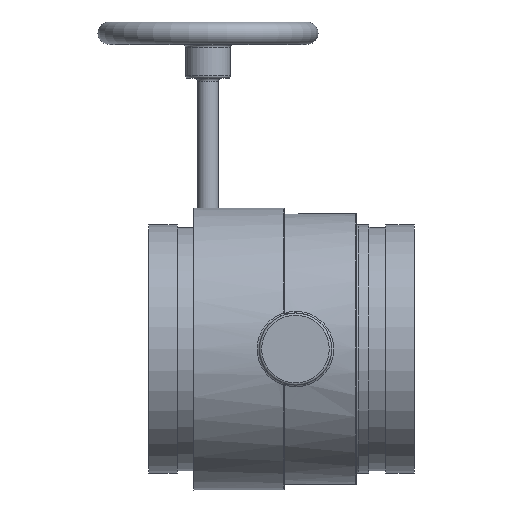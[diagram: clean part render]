
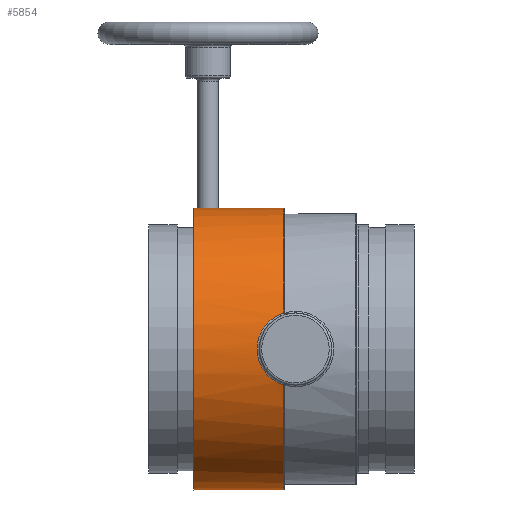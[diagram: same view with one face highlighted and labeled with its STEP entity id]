
A CAD part, front view. The second image highlights one B-rep face of the part: STEP entity #5854.
In plain terms, the highlighted cylindrical face has radius 79.375 mm (diameter 158.75 mm), a full revolution.
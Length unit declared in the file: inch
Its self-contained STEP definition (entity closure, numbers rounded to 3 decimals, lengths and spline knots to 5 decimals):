
#80=B_SPLINE_CURVE_WITH_KNOTS('',3,(#9733,#9734,#9735,#9736,#9737,#9738,
#9739),.UNSPECIFIED.,.F.,.F.,(4,1,1,1,4),(-5.47005,-4.68862,
-3.90718,-3.12575,-2.73502),.UNSPECIFIED.);
#81=B_SPLINE_CURVE_WITH_KNOTS('',3,(#9740,#9741,#9742,#9743,#9744,#9745,
#9746),.UNSPECIFIED.,.F.,.F.,(4,1,1,1,4),(-2.73502,-2.34431,
-1.17215,-0.78144,0.),
 .UNSPECIFIED.);
#87=B_SPLINE_CURVE_WITH_KNOTS('',3,(#9875,#9876,#9877,#9878,#9879),
 .UNSPECIFIED.,.F.,.F.,(4,1,4),(0.,0.1386,0.24254),
 .UNSPECIFIED.);
#88=B_SPLINE_CURVE_WITH_KNOTS('',3,(#9883,#9884,#9885,#9886,#9887),
 .UNSPECIFIED.,.F.,.F.,(4,1,4),(0.,0.10395,0.24255),
 .UNSPECIFIED.);
#389=FACE_OUTER_BOUND('',#756,.T.);
#756=EDGE_LOOP('',(#3843,#3844,#3845,#3846,#3847,#3848,#3849,#3850,#3851,
#3852,#3853,#3854,#3855));
#1170=LINE('',#9873,#1481);
#1171=LINE('',#9889,#1482);
#1172=LINE('',#9892,#1483);
#1481=VECTOR('',#7384,0.3937);
#1482=VECTOR('',#7387,0.3937);
#1483=VECTOR('',#7390,3.125);
#1800=CIRCLE('',#6369,3.125);
#1801=CIRCLE('',#6370,3.125);
#1802=CIRCLE('',#6371,3.125);
#1803=CIRCLE('',#6372,3.125);
#1804=CIRCLE('',#6373,3.125);
#2309=VERTEX_POINT('',#9667);
#2311=VERTEX_POINT('',#9730);
#2312=VERTEX_POINT('',#9732);
#2332=VERTEX_POINT('',#9870);
#2333=VERTEX_POINT('',#9872);
#2334=VERTEX_POINT('',#9874);
#2335=VERTEX_POINT('',#9880);
#2336=VERTEX_POINT('',#9882);
#2337=VERTEX_POINT('',#9888);
#2338=VERTEX_POINT('',#9891);
#2339=VERTEX_POINT('',#9893);
#2866=EDGE_CURVE('',#2311,#2312,#80,.T.);
#2867=EDGE_CURVE('',#2312,#2309,#81,.T.);
#2899=EDGE_CURVE('',#2332,#2311,#1800,.T.);
#2900=EDGE_CURVE('',#2333,#2332,#1170,.T.);
#2901=EDGE_CURVE('',#2334,#2333,#87,.T.);
#2902=EDGE_CURVE('',#2335,#2334,#1801,.T.);
#2903=EDGE_CURVE('',#2336,#2335,#88,.T.);
#2904=EDGE_CURVE('',#2337,#2336,#1171,.T.);
#2905=EDGE_CURVE('',#2309,#2337,#1802,.T.);
#2906=EDGE_CURVE('',#2312,#2338,#1172,.T.);
#2907=EDGE_CURVE('',#2338,#2339,#1803,.T.);
#2908=EDGE_CURVE('',#2339,#2338,#1804,.T.);
#3843=ORIENTED_EDGE('',*,*,#2866,.F.);
#3844=ORIENTED_EDGE('',*,*,#2899,.F.);
#3845=ORIENTED_EDGE('',*,*,#2900,.F.);
#3846=ORIENTED_EDGE('',*,*,#2901,.F.);
#3847=ORIENTED_EDGE('',*,*,#2902,.F.);
#3848=ORIENTED_EDGE('',*,*,#2903,.F.);
#3849=ORIENTED_EDGE('',*,*,#2904,.F.);
#3850=ORIENTED_EDGE('',*,*,#2905,.F.);
#3851=ORIENTED_EDGE('',*,*,#2867,.F.);
#3852=ORIENTED_EDGE('',*,*,#2906,.T.);
#3853=ORIENTED_EDGE('',*,*,#2907,.T.);
#3854=ORIENTED_EDGE('',*,*,#2908,.T.);
#3855=ORIENTED_EDGE('',*,*,#2906,.F.);
#5322=CYLINDRICAL_SURFACE('',#6368,3.125);
#5854=ADVANCED_FACE('',(#389),#5322,.T.);
#6368=AXIS2_PLACEMENT_3D('',#9869,#7380,#7381);
#6369=AXIS2_PLACEMENT_3D('',#9871,#7382,#7383);
#6370=AXIS2_PLACEMENT_3D('',#9881,#7385,#7386);
#6371=AXIS2_PLACEMENT_3D('',#9890,#7388,#7389);
#6372=AXIS2_PLACEMENT_3D('',#9894,#7391,#7392);
#6373=AXIS2_PLACEMENT_3D('',#9895,#7393,#7394);
#7380=DIRECTION('center_axis',(0.,0.,-1.));
#7381=DIRECTION('ref_axis',(0.,1.,0.));
#7382=DIRECTION('center_axis',(0.,0.,-1.));
#7383=DIRECTION('ref_axis',(0.,-1.,0.));
#7384=DIRECTION('',(0.,0.,-1.));
#7385=DIRECTION('center_axis',(0.,0.,-1.));
#7386=DIRECTION('ref_axis',(0.,1.,0.));
#7387=DIRECTION('',(0.,0.,1.));
#7388=DIRECTION('center_axis',(0.,0.,-1.));
#7389=DIRECTION('ref_axis',(0.,-1.,0.));
#7390=DIRECTION('',(0.,0.,1.));
#7391=DIRECTION('center_axis',(0.,0.,-1.));
#7392=DIRECTION('ref_axis',(1.,0.,0.));
#7393=DIRECTION('center_axis',(0.,0.,-1.));
#7394=DIRECTION('ref_axis',(1.,0.,0.));
#9667=CARTESIAN_POINT('',(-0.79651,-3.02179,0.26));
#9730=CARTESIAN_POINT('',(0.79651,-3.02179,0.26));
#9732=CARTESIAN_POINT('',(0.,-3.125,0.85));
#9733=CARTESIAN_POINT('Ctrl Pts',(0.79651,-3.02179,0.26));
#9734=CARTESIAN_POINT('Ctrl Pts',(0.76574,-3.0299,0.35732));
#9735=CARTESIAN_POINT('Ctrl Pts',(0.66957,-3.05441,0.53971));
#9736=CARTESIAN_POINT('Ctrl Pts',(0.44081,-3.09759,0.74413));
#9737=CARTESIAN_POINT('Ctrl Pts',(0.20198,-3.12133,0.83608));
#9738=CARTESIAN_POINT('Ctrl Pts',(0.05045,-3.12499,0.84998));
#9739=CARTESIAN_POINT('Ctrl Pts',(-0.00006,-3.12501,
0.85001));
#9740=CARTESIAN_POINT('Ctrl Pts',(-0.00006,-3.12501,
0.85001));
#9741=CARTESIAN_POINT('Ctrl Pts',(-0.05056,-3.12502,
0.85003));
#9742=CARTESIAN_POINT('Ctrl Pts',(-0.25252,-3.12031,
0.83168));
#9743=CARTESIAN_POINT('Ctrl Pts',(-0.48628,-3.09002,
0.71601));
#9744=CARTESIAN_POINT('Ctrl Pts',(-0.69345,-3.0482,
0.49403));
#9745=CARTESIAN_POINT('Ctrl Pts',(-0.76574,-3.0299,0.35732));
#9746=CARTESIAN_POINT('Ctrl Pts',(-0.79651,-3.02179,
0.26));
#9869=CARTESIAN_POINT('Origin',(0.,0.,1.25));
#9870=CARTESIAN_POINT('',(0.73764,3.03669,0.26));
#9871=CARTESIAN_POINT('Origin',(0.,0.,0.26));
#9872=CARTESIAN_POINT('',(0.73764,3.03669,0.52));
#9873=CARTESIAN_POINT('',(0.73764,3.03669,1.25));
#9874=CARTESIAN_POINT('',(0.67783,3.0506,0.58));
#9875=CARTESIAN_POINT('Ctrl Pts',(0.67783,3.0506,0.58));
#9876=CARTESIAN_POINT('Ctrl Pts',(0.69553,3.04667,0.58));
#9877=CARTESIAN_POINT('Ctrl Pts',(0.72628,3.03949,0.56538));
#9878=CARTESIAN_POINT('Ctrl Pts',(0.73764,3.03669,0.53364));
#9879=CARTESIAN_POINT('Ctrl Pts',(0.73764,3.03669,0.52));
#9880=CARTESIAN_POINT('',(-0.67783,3.0506,0.58));
#9881=CARTESIAN_POINT('Origin',(0.,0.,0.58));
#9882=CARTESIAN_POINT('',(-0.73764,3.03669,0.52));
#9883=CARTESIAN_POINT('Ctrl Pts',(-0.73764,3.03669,0.52));
#9884=CARTESIAN_POINT('Ctrl Pts',(-0.73764,3.03669,0.53364));
#9885=CARTESIAN_POINT('Ctrl Pts',(-0.72628,3.03949,0.56537));
#9886=CARTESIAN_POINT('Ctrl Pts',(-0.69553,3.04667,0.58));
#9887=CARTESIAN_POINT('Ctrl Pts',(-0.67783,3.0506,0.58));
#9888=CARTESIAN_POINT('',(-0.73764,3.03669,0.26));
#9889=CARTESIAN_POINT('',(-0.73764,3.03669,1.25));
#9890=CARTESIAN_POINT('Origin',(0.,0.,0.26));
#9891=CARTESIAN_POINT('',(0.,-3.125,2.25));
#9892=CARTESIAN_POINT('',(0.,-3.125,1.25));
#9893=CARTESIAN_POINT('',(0.,3.125,2.25));
#9894=CARTESIAN_POINT('Origin',(0.,0.,2.25));
#9895=CARTESIAN_POINT('Origin',(0.,0.,2.25));
